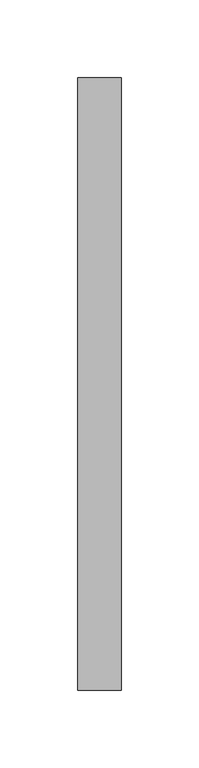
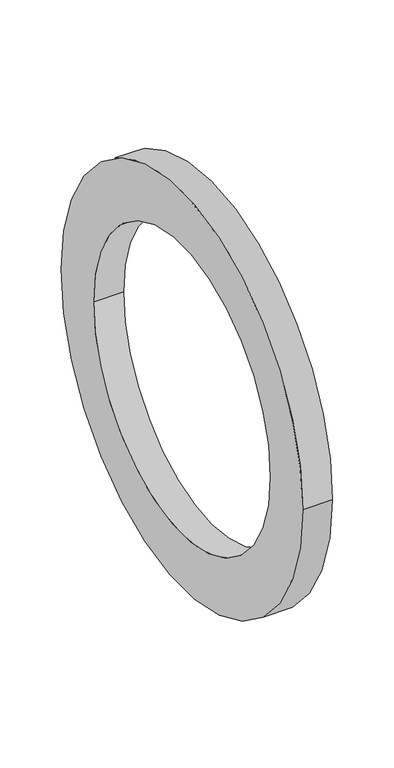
"""IFC4 building model written with IfcOpenShell, lengths in millimetres: pipe fitting geometry, NIRON accesorio brida : Estándar."""

from ifc_helpers import new_model, si_unit, point, frame, origin, origin_2d, place, context, project, spatial, circle_curve, trimmed, segment, composite_curve, outline, extrude, source, transform, mapped, element, save


def pipe_fitting_d86e6f38(model_context):
    return source(origin(), model_context, "Body", "SweptSolid", [
        extrude(outline(composite_curve([segment(trimmed(circle_curve(origin_2d(), 197.5), [point((197.5, 0.0))], [point((-197.5, 0.0))], False, "CARTESIAN"), True, "CONTINUOUS"), segment(trimmed(circle_curve(origin_2d(), 197.5), [point((-197.5, 0.0))], [point((197.5, 0.0))], False, "CARTESIAN"), True, "CONTINUOUS")], self_intersect=False), holes=[composite_curve([segment(trimmed(circle_curve(origin_2d(), 144.0), [point((144.0, 0.0))], [point((-144.0, 0.0))], True, "CARTESIAN"), True, "CONTINUOUS"), segment(trimmed(circle_curve(origin_2d(), 144.0), [point((-144.0, 0.0))], [point((144.0, 0.0))], True, "CARTESIAN"), True, "CONTINUOUS")], self_intersect=False)]), frame((2.4830127, 0.0, 0.0), z_axis=(1.0, 0.0, 0.0), x_axis=(0.0, 1.0, 0.0)), (0.0, 0.0, 1.0), 28.0),
    ])


if __name__ == "__main__":
    model = new_model("IFC4")
    model_context = context("Model", 3, world=origin())
    ifc_project = project(units=[si_unit("LENGTHUNIT", "METRE", prefix="MILLI")], contexts=[model_context])
    site = spatial("IfcSite", under=ifc_project)
    building = spatial("IfcBuilding", under=site)
    placement = place(None, origin())
    pipe_fitting_shape = pipe_fitting_d86e6f38(model_context)
    element("IfcPipeFitting", 1, ObjectType="NIRON accesorio brida : Estándar", at=placement, inside=building, context=model_context, shape_type="MappedRepresentation", body=[
        mapped(pipe_fitting_shape, transform((0.0, 0.0, 0.0), x_axis=(1.0, 0.0, 0.0), y_axis=(0.0, 1.0, 0.0), z_axis=(0.0, 0.0, 1.0))),
    ])
    save(model, "model.ifc")
